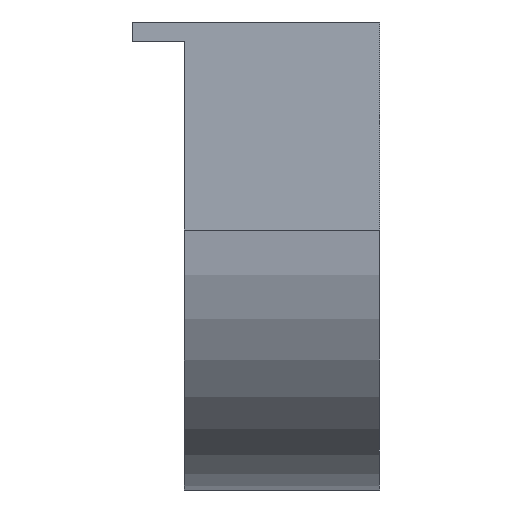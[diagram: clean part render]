
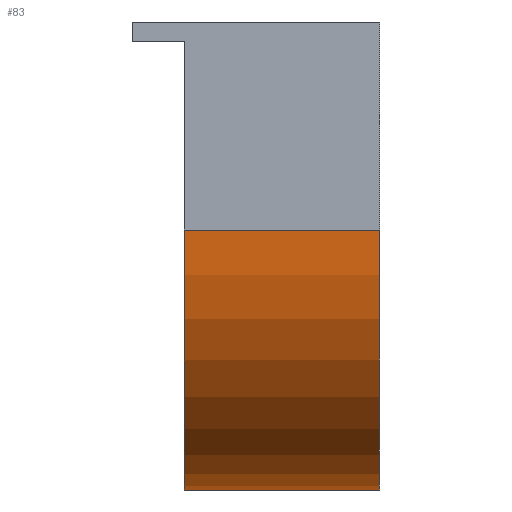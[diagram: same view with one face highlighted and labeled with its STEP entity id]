
A CAD part, left-side view. The second image highlights one B-rep face of the part: STEP entity #83.
In plain terms, the highlighted cylindrical face has radius 20 mm (diameter 40 mm), a partial arc.
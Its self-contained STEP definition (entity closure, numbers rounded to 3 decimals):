
#83 = ADVANCED_FACE( '', ( #114 ), #115, .T. );
#114 = FACE_OUTER_BOUND( '', #160, .T. );
#115 = CYLINDRICAL_SURFACE( '', #161, 20. );
#160 = EDGE_LOOP( '', ( #244, #245, #246, #247 ) );
#161 = AXIS2_PLACEMENT_3D( '', #248, #249, #250 );
#244 = ORIENTED_EDGE( '', *, *, #385, .T. );
#245 = ORIENTED_EDGE( '', *, *, #386, .F. );
#246 = ORIENTED_EDGE( '', *, *, #387, .F. );
#247 = ORIENTED_EDGE( '', *, *, #388, .T. );
#248 = CARTESIAN_POINT( '', ( 15., -15., -6. ) );
#249 = DIRECTION( '', ( 0., -1., 0. ) );
#250 = DIRECTION( '', ( -1., 0., 0. ) );
#385 = EDGE_CURVE( '', #455, #456, #457, .T. );
#386 = EDGE_CURVE( '', #458, #456, #459, .T. );
#387 = EDGE_CURVE( '', #460, #458, #461, .T. );
#388 = EDGE_CURVE( '', #460, #455, #462, .T. );
#455 = VERTEX_POINT( '', #556 );
#456 = VERTEX_POINT( '', #557 );
#457 = LINE( '', #558, #559 );
#458 = VERTEX_POINT( '', #560 );
#459 = CIRCLE( '', #561, 20. );
#460 = VERTEX_POINT( '', #562 );
#461 = LINE( '', #563, #564 );
#462 = CIRCLE( '', #565, 20. );
#556 = CARTESIAN_POINT( '', ( 15., 0., -26. ) );
#557 = CARTESIAN_POINT( '', ( 15., -15., -26. ) );
#558 = CARTESIAN_POINT( '', ( 15., -13.5, -26. ) );
#559 = VECTOR( '', #677, 1. );
#560 = CARTESIAN_POINT( '', ( -5., -15., -6. ) );
#561 = AXIS2_PLACEMENT_3D( '', #678, #679, #680 );
#562 = CARTESIAN_POINT( '', ( -5., 0., -6. ) );
#563 = CARTESIAN_POINT( '', ( -5., -8.5, -6. ) );
#564 = VECTOR( '', #681, 1. );
#565 = AXIS2_PLACEMENT_3D( '', #682, #683, #684 );
#677 = DIRECTION( '', ( 0., -1., 0. ) );
#678 = CARTESIAN_POINT( '', ( 15., -15., -6. ) );
#679 = DIRECTION( '', ( 0., -1., 0. ) );
#680 = DIRECTION( '', ( -1., 0., 0. ) );
#681 = DIRECTION( '', ( 0., -1., 0. ) );
#682 = CARTESIAN_POINT( '', ( 15., 0., -6. ) );
#683 = DIRECTION( '', ( 0., -1., 0. ) );
#684 = DIRECTION( '', ( 0., 0., -1. ) );
